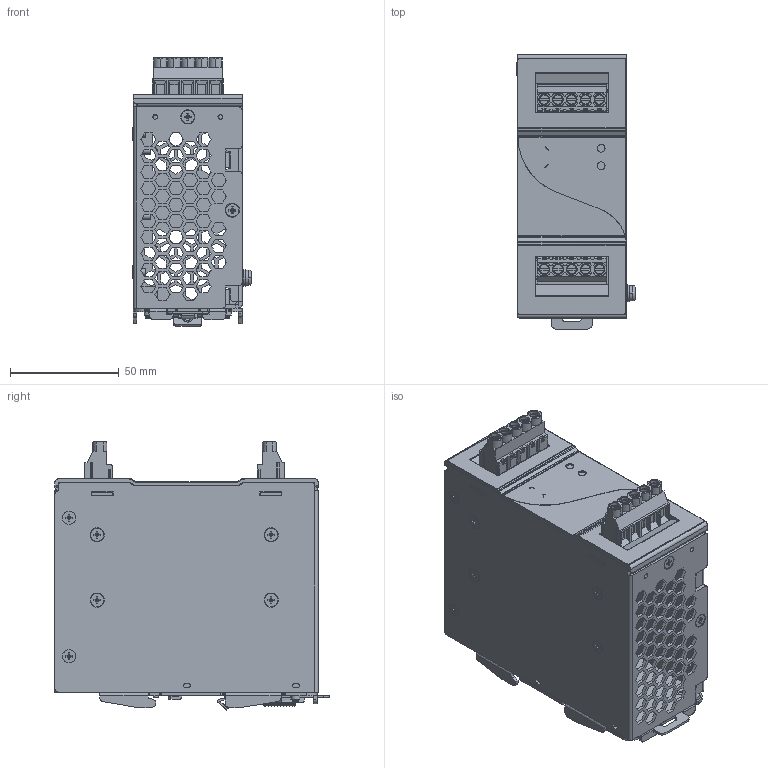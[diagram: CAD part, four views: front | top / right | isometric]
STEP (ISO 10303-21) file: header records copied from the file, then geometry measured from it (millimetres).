
FILE_DESCRIPTION (( 'STEP AP214' ), '1' );
FILE_NAME ('DPSRED40A.STEP', '2026-07-23T15:56:25', ( 'ﾏ珞褄' ), ( '' ), 'SwSTEP 2.0', 'SolidWorks 2022', '' );
FILE_SCHEMA (( 'AUTOMOTIVE_DESIGN' ));
Length unit declared in the file: millimetre
Products named in the file (20): ASSY_LATCH_50X100_ASM; 3073461746; 3268209100; 3100020600; 3244627000; 330306700000; 326307580101; EE_LED11-21_2300221331; 2958044300; 3100000600; DPSRED40A; 3460088100; ASSY_PWB_ASM; 330307100101; 3462026200; 330306690101; 3202315200; 3461303000; 3100000800; 3105343000
Assembly tree (36 placements, depth 3):
  DPSRED40A
    330306690101
    330307100101
    330306700000
    326307580101
    3268209100
    3202315200
    ASSY_LATCH_50X100_ASM
      3461303000
      3460088100
      3462026200
    ASSY_PWB_ASM
      2958044300
      3244627000  x2
      3073461746  x2
      EE_LED11-21_2300221331  x2
    3100000600  x5
    3100000800  x8
    3105343000
    3100020600  x4
Bounding box: 54.4 x 126 x 123.24 mm (x, y, z)
Volume: 93010.3 mm3; surface area: 144591.9 mm2
Topology: 35 solids, 36 shells, 3288 faces, 8673 edges, 5486 vertices
Faces by surface type: plane 2132, cylinder 744, bspline 216, cone 196
Entity records: 93231 total; most frequent: CARTESIAN_POINT 19724, ORIENTED_EDGE 11909, DIRECTION 11050, EDGE_CURVE 5956, LINE 4548, VECTOR 4548, VERTEX_POINT 3874, AXIS2_PLACEMENT_3D 3251
